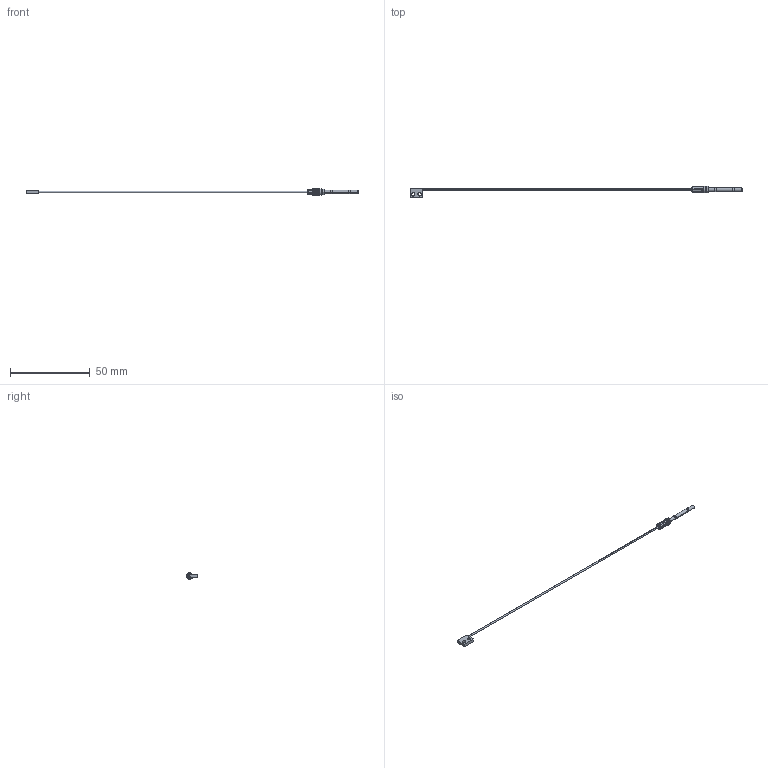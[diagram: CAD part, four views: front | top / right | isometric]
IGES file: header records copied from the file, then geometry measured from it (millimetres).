
Start section: SolidWorks IGES file using analytic representation for surfaces
Bounding box: 208 x 7 x 4 mm (x, y, z)
Surface area: 1009.4 mm2 (no closed solid volume)
Topology: 0 solids, 0 shells, 96 faces, 868 edges, 868 vertices
Faces by surface type: bspline 62, revolution 34
